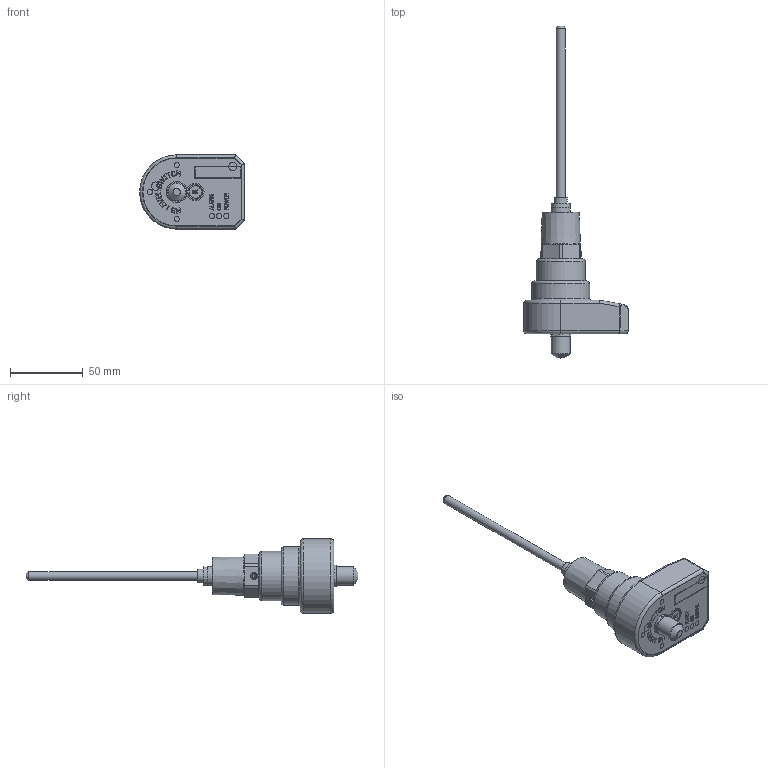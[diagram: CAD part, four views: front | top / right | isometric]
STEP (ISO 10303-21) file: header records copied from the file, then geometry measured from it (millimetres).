
FILE_DESCRIPTION((''),'2;1');
FILE_NAME('R:\Mekanisk design\HBAC\5. STEP files\HBAC-1.3-KOMP-R1.stp','2015-06-19T11:54:45',('kc'),(''),'Autodesk Inventor 2013','Autodesk Inventor 2013','');
FILE_SCHEMA(('AUTOMOTIVE_DESIGN { 1 0 10303 214 1 1 1 1 }'));
Length unit declared in the file: millimetre
Products named in the file (1): HBAC-1.3-KOMP-R1
Bounding box: 72 x 228.2 x 51 mm (x, y, z)
Volume: 75018 mm3; surface area: 57317.6 mm2
Topology: 1 solids, 12 shells, 1001 faces, 2589 edges, 1675 vertices
Faces by surface type: plane 588, cylinder 181, bspline 126, torus 58, cone 42, sphere 6
Full cylindrical faces by diameter (mm): 0.5 x2, 1.003 x1, 1.5 x7, 1.8 x1, 2.459 x2, 2.8 x1, 3.2 x1, 3.242 x1, 3.6 x6, 4 x16, 4.7 x1, 5 x1, 5.8 x2, 5.9 x1, 6 x5, 6.1 x1, 6.2 x1, 6.3 x1, 7 x1, 8 x2, 8.5 x1, 9 x1, 9.7 x1, 10 x2, 10.4 x1, 10.5 x2, 10.55 x2, 11.5 x1, 11.8 x2, 12 x4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
Entity records: 35554 total; most frequent: CARTESIAN_POINT 11468, ORIENTED_EDGE 4750, DIRECTION 4319, EDGE_CURVE 2375, VERTEX_POINT 1608, VECTOR 1473, LINE 1473, AXIS2_PLACEMENT_3D 1423
